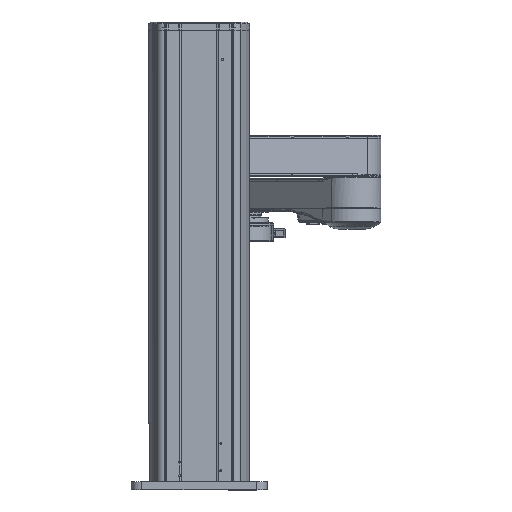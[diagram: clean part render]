
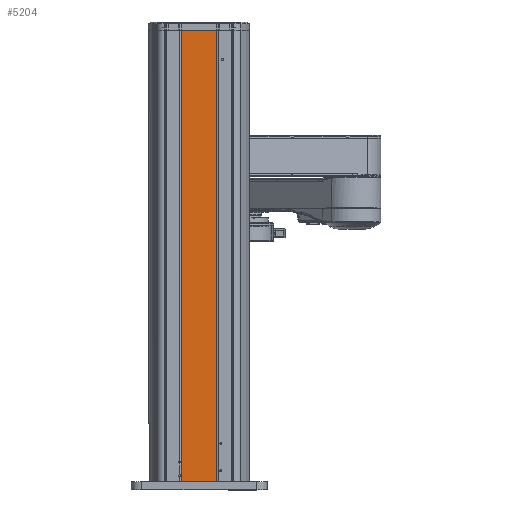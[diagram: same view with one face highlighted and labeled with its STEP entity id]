
A CAD part, top view. The second image highlights one B-rep face of the part: STEP entity #5204.
In plain terms, the highlighted planar face has unit normal (0, 0, 1).
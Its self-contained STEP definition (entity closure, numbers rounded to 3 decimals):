
#24 = FACE_OUTER_BOUND ( 'NONE', #15240, .T. ) ;
#3502 = CARTESIAN_POINT ( 'NONE',  ( 33., 415., 73. ) ) ;
#4638 = EDGE_CURVE ( 'NONE', #51052, #80318, #27995, .T. ) ;
#5204 = ADVANCED_FACE ( 'NONE', ( #24 ), #29382, .F. ) ;
#6027 = LINE ( 'NONE', #97589, #65969 ) ;
#7790 = DIRECTION ( 'NONE',  ( 1., 0., 0. ) ) ;
#9145 = DIRECTION ( 'NONE',  ( -1., 0., 0. ) ) ;
#15240 = EDGE_LOOP ( 'NONE', ( #119574, #112001, #110192, #84781 ) ) ;
#21274 = EDGE_CURVE ( 'NONE', #91114, #113937, #76131, .T. ) ;
#21371 = CARTESIAN_POINT ( 'NONE',  ( 33., -415., 73. ) ) ;
#21583 = CARTESIAN_POINT ( 'NONE',  ( -33., 415., 73. ) ) ;
#27995 = LINE ( 'NONE', #112139, #100211 ) ;
#29382 = PLANE ( 'NONE',  #67322 ) ;
#50596 = DIRECTION ( 'NONE',  ( 0., 1., 0. ) ) ;
#51052 = VERTEX_POINT ( 'NONE', #21583 ) ;
#54254 = EDGE_CURVE ( 'NONE', #91114, #51052, #6027, .T. ) ;
#56855 = CARTESIAN_POINT ( 'NONE',  ( -33., -415., 73. ) ) ;
#59217 = VECTOR ( 'NONE', #103515, 1000. ) ;
#65969 = VECTOR ( 'NONE', #78180, 1000. ) ;
#67322 = AXIS2_PLACEMENT_3D ( 'NONE', #110517, #101934, #9145 ) ;
#75968 = EDGE_CURVE ( 'NONE', #113937, #80318, #96872, .T. ) ;
#76131 = LINE ( 'NONE', #113283, #59217 ) ;
#77798 = CARTESIAN_POINT ( 'NONE',  ( 33., 415., 73. ) ) ;
#78180 = DIRECTION ( 'NONE',  ( 0., 1., 0. ) ) ;
#80318 = VERTEX_POINT ( 'NONE', #77798 ) ;
#84781 = ORIENTED_EDGE ( 'NONE', *, *, #4638, .F. ) ;
#91114 = VERTEX_POINT ( 'NONE', #56855 ) ;
#96872 = LINE ( 'NONE', #3502, #113521 ) ;
#97589 = CARTESIAN_POINT ( 'NONE',  ( -33., 415., 73. ) ) ;
#100211 = VECTOR ( 'NONE', #7790, 1000. ) ;
#101934 = DIRECTION ( 'NONE',  ( 0., 0., -1. ) ) ;
#103515 = DIRECTION ( 'NONE',  ( 1., 0., 0. ) ) ;
#110192 = ORIENTED_EDGE ( 'NONE', *, *, #75968, .T. ) ;
#110517 = CARTESIAN_POINT ( 'NONE',  ( -72.461, 415., 73. ) ) ;
#112001 = ORIENTED_EDGE ( 'NONE', *, *, #21274, .T. ) ;
#112139 = CARTESIAN_POINT ( 'NONE',  ( 47., 415., 73. ) ) ;
#113283 = CARTESIAN_POINT ( 'NONE',  ( -72.461, -415., 73. ) ) ;
#113521 = VECTOR ( 'NONE', #50596, 1000. ) ;
#113937 = VERTEX_POINT ( 'NONE', #21371 ) ;
#119574 = ORIENTED_EDGE ( 'NONE', *, *, #54254, .F. ) ;
